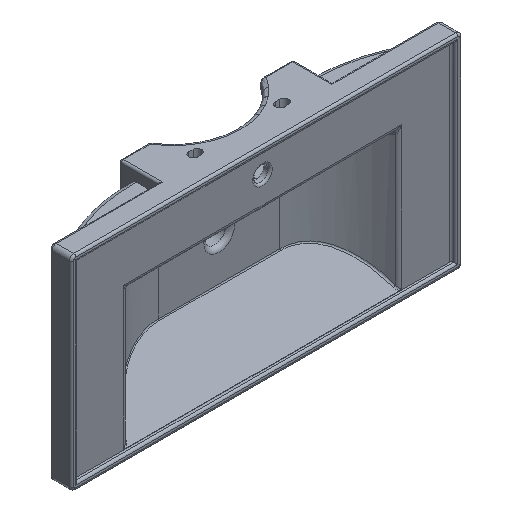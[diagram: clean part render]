
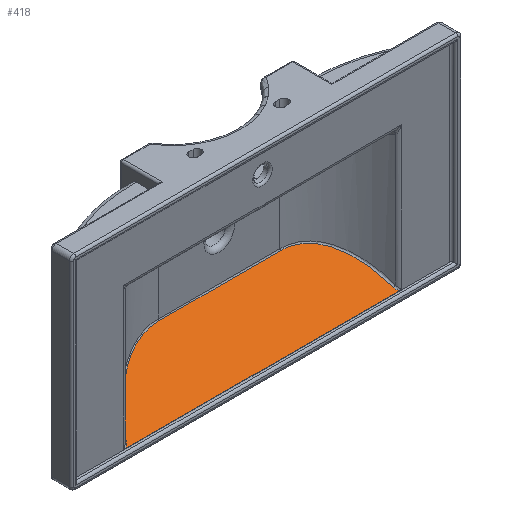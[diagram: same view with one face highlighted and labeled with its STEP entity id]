
A CAD part, isometric view. The second image highlights one B-rep face of the part: STEP entity #418.
In plain terms, the highlighted planar face has unit normal (0, -0.766, 0.643).
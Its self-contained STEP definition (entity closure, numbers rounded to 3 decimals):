
#418 = ADVANCED_FACE( '', ( #949 ), #950, .T. );
#949 = FACE_OUTER_BOUND( '', #4202, .T. );
#950 = PLANE( '', #4203 );
#4202 = EDGE_LOOP( '', ( #8767, #8768, #8769, #8770, #8771, #8772 ) );
#4203 = AXIS2_PLACEMENT_3D( '', #8773, #8774, #8775 );
#8767 = ORIENTED_EDGE( '', *, *, #10104, .F. );
#8768 = ORIENTED_EDGE( '', *, *, #10105, .T. );
#8769 = ORIENTED_EDGE( '', *, *, #9858, .T. );
#8770 = ORIENTED_EDGE( '', *, *, #10106, .T. );
#8771 = ORIENTED_EDGE( '', *, *, #10107, .T. );
#8772 = ORIENTED_EDGE( '', *, *, #10108, .T. );
#8773 = CARTESIAN_POINT( '', ( 0., 110., -100. ) );
#8774 = DIRECTION( '', ( 0., -0.766, 0.643 ) );
#8775 = DIRECTION( '', ( 0., -0.643, -0.766 ) );
#9858 = EDGE_CURVE( '', #10668, #10666, #10669, .T. );
#10104 = EDGE_CURVE( '', #11025, #11026, #11027, .T. );
#10105 = EDGE_CURVE( '', #11025, #10668, #11028, .F. );
#10106 = EDGE_CURVE( '', #10666, #11029, #11030, .T. );
#10107 = EDGE_CURVE( '', #11029, #11031, #11032, .T. );
#10108 = EDGE_CURVE( '', #11031, #11026, #11033, .F. );
#10666 = VERTEX_POINT( '', #12776 );
#10668 = VERTEX_POINT( '', #12803 );
#10669 = ELLIPSE( '', #12804, 303.366, 195. );
#11025 = VERTEX_POINT( '', #14034 );
#11026 = VERTEX_POINT( '', #14035 );
#11027 = LINE( '', #14036, #14037 );
#11028 = ELLIPSE( '', #14038, 23.336, 15. );
#11029 = VERTEX_POINT( '', #14039 );
#11030 = LINE( '', #14040, #14041 );
#11031 = VERTEX_POINT( '', #14042 );
#11032 = ELLIPSE( '', #14043, 303.366, 195. );
#11033 = ELLIPSE( '', #14044, 23.336, 15. );
#12776 = CARTESIAN_POINT( '', ( 140.023, 108.83, -101.394 ) );
#12803 = CARTESIAN_POINT( '', ( 307.903, 15.974, -212.056 ) );
#12804 = AXIS2_PLACEMENT_3D( '', #15697, #15698, #15699 );
#14034 = CARTESIAN_POINT( '', ( 314.873, 10., -219.175 ) );
#14035 = CARTESIAN_POINT( '', ( -314.873, 10., -219.175 ) );
#14036 = CARTESIAN_POINT( '', ( 0., 10., -219.175 ) );
#14037 = VECTOR( '', #16029, 1000. );
#14038 = AXIS2_PLACEMENT_3D( '', #16030, #16031, #16032 );
#14039 = CARTESIAN_POINT( '', ( -140.023, 108.83, -101.394 ) );
#14040 = CARTESIAN_POINT( '', ( 0., 108.83, -101.394 ) );
#14041 = VECTOR( '', #16033, 1000. );
#14042 = CARTESIAN_POINT( '', ( -307.903, 15.974, -212.056 ) );
#14043 = AXIS2_PLACEMENT_3D( '', #16034, #16035, #16036 );
#14044 = AXIS2_PLACEMENT_3D( '', #16037, #16038, #16039 );
#15697 = CARTESIAN_POINT( '', ( 141.79, -86.162, -333.776 ) );
#15698 = DIRECTION( '', ( 0., -0.766, 0.643 ) );
#15699 = DIRECTION( '', ( 0., 0.643, 0.766 ) );
#16029 = DIRECTION( '', ( -1., 0., 0. ) );
#16030 = CARTESIAN_POINT( '', ( 320.681, 23.83, -202.693 ) );
#16031 = DIRECTION( '', ( 0., -0.766, 0.643 ) );
#16032 = DIRECTION( '', ( 0., 0.643, 0.766 ) );
#16033 = DIRECTION( '', ( -1., 0., 0. ) );
#16034 = CARTESIAN_POINT( '', ( -141.79, -86.162, -333.776 ) );
#16035 = DIRECTION( '', ( 0., -0.766, 0.643 ) );
#16036 = DIRECTION( '', ( 0., 0.643, 0.766 ) );
#16037 = CARTESIAN_POINT( '', ( -320.681, 23.83, -202.693 ) );
#16038 = DIRECTION( '', ( 0., -0.766, 0.643 ) );
#16039 = DIRECTION( '', ( 0., 0.643, 0.766 ) );
